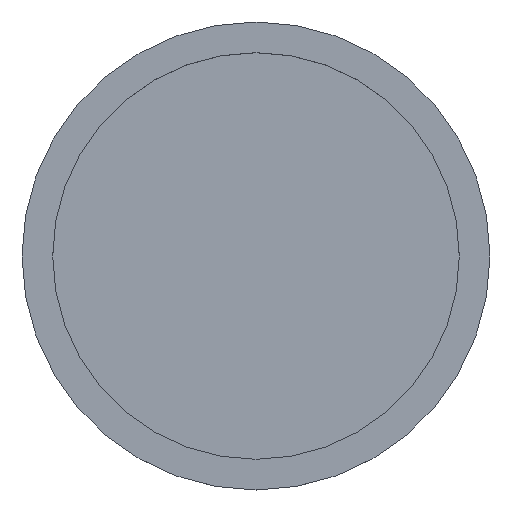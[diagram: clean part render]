
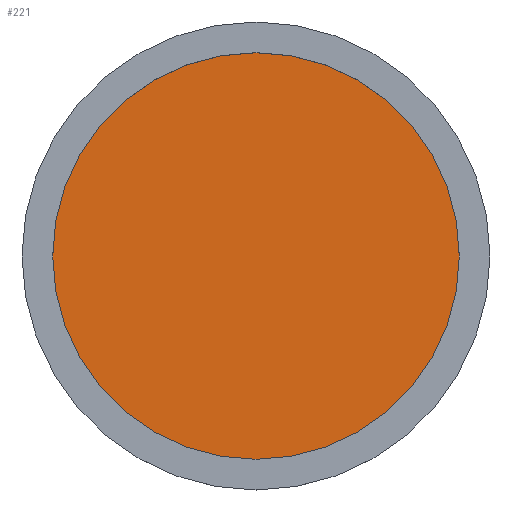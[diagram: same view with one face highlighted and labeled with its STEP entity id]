
A CAD part, top view. The second image highlights one B-rep face of the part: STEP entity #221.
In plain terms, the highlighted planar face has unit normal (0, 0, 1).
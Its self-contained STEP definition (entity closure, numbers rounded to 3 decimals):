
#190=CARTESIAN_POINT('',(142.5,0.,8.));
#191=VERTEX_POINT('',#190);
#192=CARTESIAN_POINT('',(0.0,0.0,8.));
#193=DIRECTION('',(0.0,0.0,1.0));
#194=DIRECTION('',(-1.0,0.0,0.0));
#195=AXIS2_PLACEMENT_3D('',#192,#193,#194);
#196=CIRCLE('',#195,142.5);
#197=EDGE_CURVE('',#191,#191,#196,.T.);
#213=CARTESIAN_POINT('',(0.0,0.0,8.));
#214=DIRECTION('',(0.0,0.0,-1.0));
#215=DIRECTION('',(-1.0,0.0,0.0));
#216=AXIS2_PLACEMENT_3D('',#213,#214,#215);
#217=PLANE('',#216);
#218=ORIENTED_EDGE('',*,*,#197,.T.);
#219=EDGE_LOOP('',(#218));
#220=FACE_OUTER_BOUND('',#219,.T.);
#221=ADVANCED_FACE('',(#220),#217,.F.);
